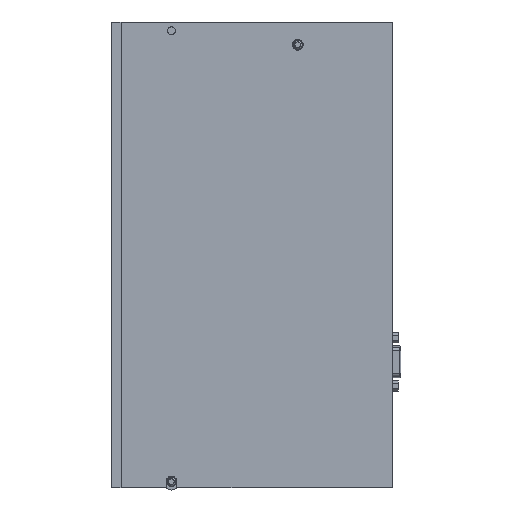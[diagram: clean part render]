
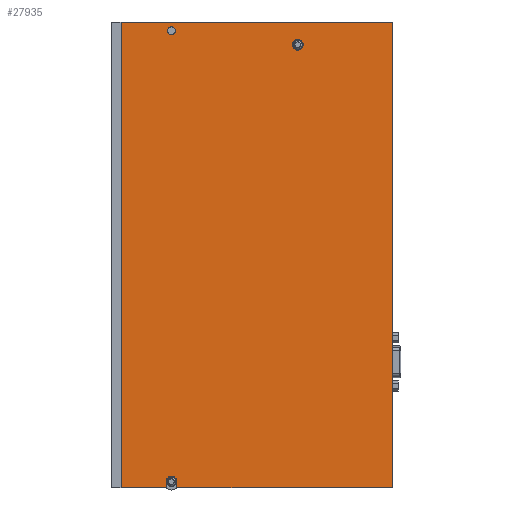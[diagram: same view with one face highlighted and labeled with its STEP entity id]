
A CAD part, front view. The second image highlights one B-rep face of the part: STEP entity #27935.
In plain terms, the highlighted planar face has unit normal (0, -1, 0).
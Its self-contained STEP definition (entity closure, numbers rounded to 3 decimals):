
#1237=DIRECTION('',(-1.,0.,0.));
#1238=VECTOR('',#1237,139.5);
#1239=CARTESIAN_POINT('',(144.5,0.,120.));
#1240=LINE('',#1239,#1238);
#1241=DIRECTION('',(0.,0.,-1.));
#1242=VECTOR('',#1241,240.);
#1243=CARTESIAN_POINT('',(5.,0.,120.));
#1244=LINE('',#1243,#1242);
#1358=DIRECTION('',(0.,0.,-1.));
#1359=VECTOR('',#1358,3.3);
#1360=CARTESIAN_POINT('',(33.75,0.,-116.7));
#1361=LINE('',#1360,#1359);
#1378=CARTESIAN_POINT('',(144.5,0.,119.5));
#1379=DIRECTION('',(0.,1.,0.));
#1380=DIRECTION('',(0.,0.,1.));
#1381=AXIS2_PLACEMENT_3D('',#1378,#1379,#1380);
#1383=DIRECTION('',(0.,0.,-1.));
#1384=VECTOR('',#1383,239.);
#1385=CARTESIAN_POINT('',(145.,0.,119.5));
#1386=LINE('',#1385,#1384);
#1387=CARTESIAN_POINT('',(144.5,0.,-119.5));
#1388=DIRECTION('',(0.,1.,0.));
#1389=DIRECTION('',(1.,0.,0.));
#1390=AXIS2_PLACEMENT_3D('',#1387,#1388,#1389);
#1392=DIRECTION('',(-1.,0.,0.));
#1393=VECTOR('',#1392,110.75);
#1394=CARTESIAN_POINT('',(144.5,0.,-120.));
#1395=LINE('',#1394,#1393);
#1396=CARTESIAN_POINT('',(31.,0.,-116.7));
#1397=DIRECTION('',(0.,-1.,0.));
#1398=DIRECTION('',(1.,0.,0.));
#1399=AXIS2_PLACEMENT_3D('',#1396,#1397,#1398);
#1401=DIRECTION('',(0.,0.,-1.));
#1402=VECTOR('',#1401,3.3);
#1403=CARTESIAN_POINT('',(28.25,0.,-116.7));
#1404=LINE('',#1403,#1402);
#1405=DIRECTION('',(-1.,0.,0.));
#1406=VECTOR('',#1405,23.25);
#1407=CARTESIAN_POINT('',(28.25,0.,-120.));
#1408=LINE('',#1407,#1406);
#1409=CARTESIAN_POINT('',(96.125,0.,108.5));
#1410=DIRECTION('',(0.,-1.,0.));
#1411=DIRECTION('',(0.,0.,1.));
#1412=AXIS2_PLACEMENT_3D('',#1409,#1410,#1411);
#1414=CARTESIAN_POINT('',(96.125,0.,108.5));
#1415=DIRECTION('',(0.,-1.,0.));
#1416=DIRECTION('',(0.,0.,-1.));
#1417=AXIS2_PLACEMENT_3D('',#1414,#1415,#1416);
#1419=CARTESIAN_POINT('',(31.,0.,115.75));
#1420=DIRECTION('',(0.,-1.,0.));
#1421=DIRECTION('',(-1.,0.,0.));
#1422=AXIS2_PLACEMENT_3D('',#1419,#1420,#1421);
#1424=CARTESIAN_POINT('',(31.,0.,115.75));
#1425=DIRECTION('',(0.,-1.,0.));
#1426=DIRECTION('',(1.,0.,0.));
#1427=AXIS2_PLACEMENT_3D('',#1424,#1425,#1426);
#23216=CARTESIAN_POINT('',(5.,0.,120.));
#23218=VERTEX_POINT('',#23216);
#23228=CARTESIAN_POINT('',(144.5,0.,120.));
#23229=VERTEX_POINT('',#23228);
#23232=CARTESIAN_POINT('',(5.,0.,-120.));
#23233=VERTEX_POINT('',#23232);
#23235=CARTESIAN_POINT('',(33.75,0.,-120.));
#23237=VERTEX_POINT('',#23235);
#23238=CARTESIAN_POINT('',(144.5,0.,-120.));
#23239=VERTEX_POINT('',#23238);
#23252=CARTESIAN_POINT('',(28.25,0.,-120.));
#23253=VERTEX_POINT('',#23252);
#23258=CARTESIAN_POINT('',(33.75,0.,-116.7));
#23259=VERTEX_POINT('',#23258);
#23385=CARTESIAN_POINT('',(33.,0.,115.75));
#23386=CARTESIAN_POINT('',(29.,0.,115.75));
#23387=VERTEX_POINT('',#23385);
#23388=VERTEX_POINT('',#23386);
#23397=CARTESIAN_POINT('',(145.,0.,119.5));
#23398=VERTEX_POINT('',#23397);
#23399=CARTESIAN_POINT('',(145.,0.,-119.5));
#23400=VERTEX_POINT('',#23399);
#23401=CARTESIAN_POINT('',(28.25,0.,-116.7));
#23402=VERTEX_POINT('',#23401);
#23403=CARTESIAN_POINT('',(96.125,0.,111.25));
#23404=CARTESIAN_POINT('',(96.125,0.,105.75));
#23405=VERTEX_POINT('',#23403);
#23406=VERTEX_POINT('',#23404);
#27903=CARTESIAN_POINT('',(5.,0.,-120.));
#27904=DIRECTION('',(0.,-1.,0.));
#27905=DIRECTION('',(1.,0.,0.));
#27906=AXIS2_PLACEMENT_3D('',#27903,#27904,#27905);
#27907=PLANE('',#27906);
#27909=ORIENTED_EDGE('',*,*,#27908,.T.);
#27911=ORIENTED_EDGE('',*,*,#27910,.T.);
#27913=ORIENTED_EDGE('',*,*,#27912,.T.);
#27914=ORIENTED_EDGE('',*,*,#27841,.T.);
#27915=ORIENTED_EDGE('',*,*,#27870,.F.);
#27916=ORIENTED_EDGE('',*,*,#27884,.T.);
#27917=ORIENTED_EDGE('',*,*,#27897,.T.);
#27918=ORIENTED_EDGE('',*,*,#27741,.T.);
#27919=ORIENTED_EDGE('',*,*,#27701,.F.);
#27920=ORIENTED_EDGE('',*,*,#27688,.F.);
#27921=EDGE_LOOP('',(#27909,#27911,#27913,#27914,#27915,#27916,#27917,#27918,
#27919,#27920));
#27922=FACE_OUTER_BOUND('',#27921,.F.);
#27924=ORIENTED_EDGE('',*,*,#27923,.T.);
#27926=ORIENTED_EDGE('',*,*,#27925,.T.);
#27927=EDGE_LOOP('',(#27924,#27926));
#27928=FACE_BOUND('',#27927,.F.);
#27930=ORIENTED_EDGE('',*,*,#27929,.T.);
#27932=ORIENTED_EDGE('',*,*,#27931,.T.);
#27933=EDGE_LOOP('',(#27930,#27932));
#27934=FACE_BOUND('',#27933,.F.);
#27935=ADVANCED_FACE('',(#27922,#27928,#27934),#27907,.T.);
#1382=CIRCLE('',#1381,0.5);
#1391=CIRCLE('',#1390,0.5);
#1400=CIRCLE('',#1399,2.75);
#1413=CIRCLE('',#1412,2.75);
#1418=CIRCLE('',#1417,2.75);
#1423=CIRCLE('',#1422,2.);
#1428=CIRCLE('',#1427,2.);
#27688=EDGE_CURVE('',#23229,#23218,#1240,.T.);
#27701=EDGE_CURVE('',#23218,#23233,#1244,.T.);
#27741=EDGE_CURVE('',#23253,#23233,#1408,.T.);
#27841=EDGE_CURVE('',#23239,#23237,#1395,.T.);
#27870=EDGE_CURVE('',#23259,#23237,#1361,.T.);
#27884=EDGE_CURVE('',#23259,#23402,#1400,.T.);
#27897=EDGE_CURVE('',#23402,#23253,#1404,.T.);
#27908=EDGE_CURVE('',#23229,#23398,#1382,.T.);
#27910=EDGE_CURVE('',#23398,#23400,#1386,.T.);
#27912=EDGE_CURVE('',#23400,#23239,#1391,.T.);
#27923=EDGE_CURVE('',#23405,#23406,#1413,.T.);
#27925=EDGE_CURVE('',#23406,#23405,#1418,.T.);
#27929=EDGE_CURVE('',#23388,#23387,#1423,.T.);
#27931=EDGE_CURVE('',#23387,#23388,#1428,.T.);
